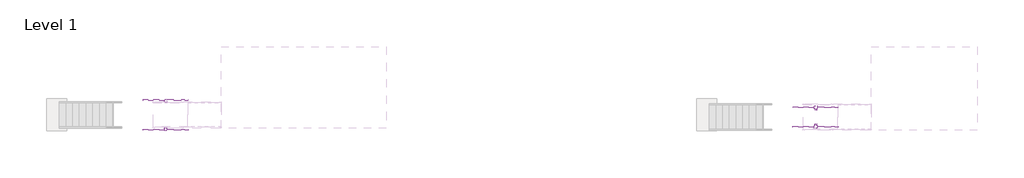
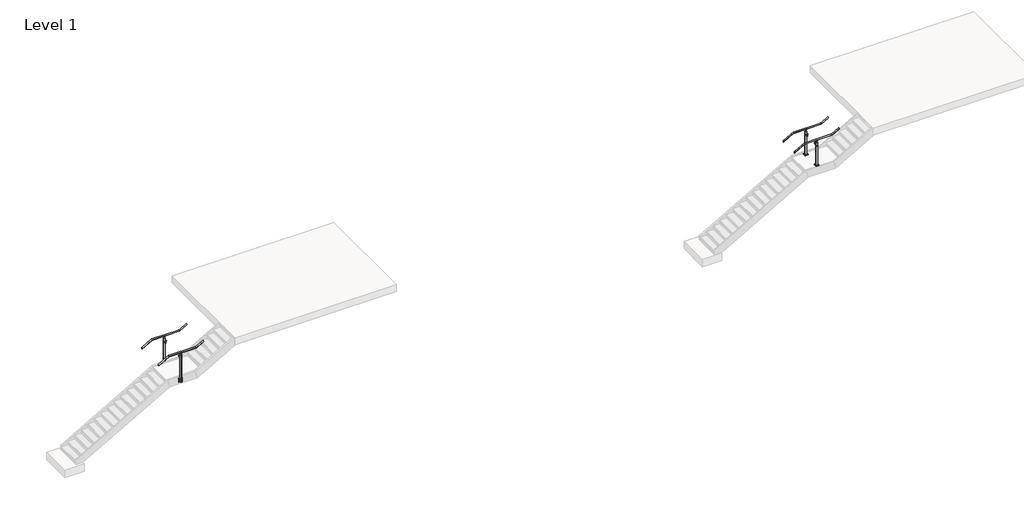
# One storey, part 22 of 26: 4 railings.
"""IFC4 building model written with IfcOpenShell, lengths in millimetres."""

from ifc_helpers import new_model, si_unit, point, frame, frame_2d, origin, place, context, project, spatial, polyline, circle_curve, ellipse_curve, trimmed, segment, composite_curve, outline, extrude, faceted_brep, element, save
from ifc_brep_helpers import plane_surface, cylinder_surface, advanced_brep

model = new_model("IFC4")

# Units and contexts
model_context = context("Model", 3, world=origin())
ifc_project = project(units=[si_unit("LENGTHUNIT", "METRE", prefix="MILLI")], contexts=[model_context])

# Site, building, storey
site = spatial("IfcSite", under=ifc_project)
building = spatial("IfcBuilding", under=site)
storey = spatial("IfcBuildingStorey", under=building, Name="Level 1", Elevation=0.0)

# Railings
placement = place(None, origin())
element("IfcRailing", 1, ObjectType="VIVA-CUBE-CableNet Infill-Panel-Fascia Mount-Stair-Landing", at=placement, inside=storey, context=model_context, shape_type="SolidModel", body=[
    advanced_brep(
    [(87644.1145262, 35001.3479941, 3009.6740933), (87644.1145262, 35052.1479941, 3009.6740933), (88031.8598629, 35001.3479941, 3231.2428571), (88031.8598629, 35052.1479941, 3231.2428571), (89368.1395262, 35001.3479941, 3385.2312362), (89368.1395262, 35052.1479941, 3385.2312362), (89098.6598629, 35052.1479941, 3231.2428571), (89098.6598629, 35001.3479941, 3231.2428571)],
    [
        (0, 1, ellipse_curve(frame((87644.1145262, 35026.7479941, 3009.6740933), z_axis=(-1.0, 0.0, 0.0), x_axis=(0.0, 0.0, -0.9999999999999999)), 29.2544781, 25.4)),
        (1, 0, ellipse_curve(frame((87644.1145262, 35026.7479941, 3009.6740933), z_axis=(-1.0, 0.0, 0.0), x_axis=(0.0, 0.0, -0.9999999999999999)), 29.2544781, 25.4)),
        (0, 2),
        (2, 3, ellipse_curve(frame((88031.8598629, 35026.7479941, 3231.2428571), z_axis=(-0.966499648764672, 0.0, -0.2566679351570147), x_axis=(0.2566679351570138, 0.0, -0.9664996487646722)), 26.2804027, 25.4)),
        (3, 1),
        (3, 2, ellipse_curve(frame((88031.8598629, 35026.7479941, 3231.2428571), z_axis=(-0.966499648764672, 0.0, -0.2566679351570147), x_axis=(0.2566679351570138, 0.0, -0.9664996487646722)), 26.2804027, 25.4)),
        (4, 5, ellipse_curve(frame((89368.1395262, 35026.7479941, 3385.2312362), z_axis=(1.0, 0.0, 0.0), x_axis=(0.0, 0.0, -1.0)), 29.2544781, 25.4)),
        (5, 4, ellipse_curve(frame((89368.1395262, 35026.7479941, 3385.2312362), z_axis=(1.0, 0.0, 0.0), x_axis=(0.0, 0.0, -1.0)), 29.2544781, 25.4)),
        (6, 7, ellipse_curve(frame((89098.6598629, 35026.7479941, 3231.2428571), z_axis=(0.9664996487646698, 0.0, 0.2566679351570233), x_axis=(0.2566679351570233, 0.0, -0.9664996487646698)), 26.2804027, 25.4)),
        (7, 4),
        (5, 6),
        (7, 6, ellipse_curve(frame((89098.6598629, 35026.7479941, 3231.2428571), z_axis=(0.9664996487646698, 0.0, 0.2566679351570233), x_axis=(0.2566679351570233, 0.0, -0.9664996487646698)), 26.2804027, 25.4)),
        (2, 7),
        (6, 3),
    ],
    [
        plane_surface(frame((87644.1145262, 35026.7479941, 3038.9285714), z_axis=(-1.0, 0.0, 0.0), x_axis=(0.0, 1.0, 0.0))),
        cylinder_surface(frame((87656.7164552, 35026.7479941, 3016.8751956), z_axis=(-0.868243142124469, 0.0, -0.49613893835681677), x_axis=(0.0, 1.0, 0.0)), 25.4),
        plane_surface(frame((89368.1395262, 35026.7479941, 3414.4857143), z_axis=(1.0, 0.0, 0.0), x_axis=(0.0, 1.0, 0.0))),
        cylinder_surface(frame((89104.5164552, 35026.7479941, 3234.5894813), z_axis=(-0.8682431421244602, 0.0, -0.49613893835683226), x_axis=(0.0, 1.0, 0.0)), 25.4),
        cylinder_surface(frame((88025.1145262, 35026.7479941, 3231.2428571), z_axis=(-1.0, 0.0, 0.0), x_axis=(0.0, 1.0, 0.0)), 25.4),
    ],
    [
        (0, [[1, 2]]),
        (1, [[-1, 3, 4, 5]]),
        (1, [[-2, -5, 6, -3]]),
        (2, [[7, 8]]),
        (3, [[9, 10, -8, 11]]),
        (3, [[12, -11, -7, -10]]),
        (4, [[-4, 13, -9, 14]]),
        (4, [[-6, -14, -12, -13]]),
    ],
),
    extrude(outline(composite_curve([segment(trimmed(circle_curve(frame_2d((0.0, 7.0)), 7.0), [point((0.0, 14.0))], [point((0.0, 0.0))], False, "CARTESIAN"), True, "CONTINUOUS"), segment(trimmed(circle_curve(frame_2d((0.0, 7.0)), 7.0), [point((0.0, 0.0))], [point((0.0, 14.0))], False, "CARTESIAN"), True, "CONTINUOUS")], self_intersect=False)), frame((88506.2255867, 34941.0641683, 2972.3156836), z_axis=(-0.0012555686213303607, 0.0, 0.999999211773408), x_axis=(-0.999999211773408, 0.0, -0.0012555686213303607)), (0.0, 0.0, 1.0), 75.97),
    extrude(outline(composite_curve([segment(polyline([(34946.3458245, 3056.8509005), (34947.3722142, 3055.8335135)]), True, "CONTINUOUS"), segment(trimmed(circle_curve(frame_2d((34946.3162363, 3054.7681916)), 1.5), [point((34947.3722142, 3055.8335135))], [point((34947.3016378, 3053.6372698))], False, "CARTESIAN"), True, "CONTINUOUS"), segment(trimmed(circle_curve(frame_2d((34932.8162363, 3070.2618193)), 22.05), [point((34947.3016378, 3053.6372698))], [point((34918.3308348, 3053.6372698))], False, "CARTESIAN"), True, "CONTINUOUS"), segment(trimmed(circle_curve(frame_2d((34919.3162363, 3054.7681916)), 1.5), [point((34918.3308348, 3053.6372698))], [point((34918.2602584, 3055.8335135))], False, "CARTESIAN"), True, "CONTINUOUS"), segment(polyline([(34918.2602584, 3055.8335135), (34919.2866481, 3056.8509005)]), True, "CONTINUOUS"), segment(trimmed(circle_curve(frame_2d((34932.8162363, 3070.2618193)), 19.05), [point((34919.2866481, 3056.8509005))], [point((34946.3458245, 3056.8509005))], True, "CARTESIAN"), True, "CONTINUOUS")], self_intersect=False)), frame((88468.0540528, 0.0, 0.0), z_axis=(1.0, 0.0, 0.0), x_axis=(0.0, 1.0, 0.0)), (0.0, 0.0, 1.0), 74.5229187),
    extrude(outline(composite_curve([segment(trimmed(circle_curve(frame_2d((2999.1922796, 88506.1656832)), 12.5), [point((2999.1922796, 88518.6656832))], [point((2999.1922796, 88493.6656832))], False, "CARTESIAN"), True, "CONTINUOUS"), segment(trimmed(circle_curve(frame_2d((2999.1922796, 88506.1656832)), 12.5), [point((2999.1922796, 88493.6656832))], [point((2999.1922796, 88518.6656832))], False, "CARTESIAN"), True, "CONTINUOUS")], self_intersect=False)), frame((0.0, 34919.2866481, 0.0), z_axis=(0.0, 1.0, 0.0), x_axis=(0.0, 0.0, 1.0)), (0.0, 0.0, 1.0), 82.061346),
    extrude(outline(polyline([(88569.6302012, 34972.2349585), (88442.6302012, 34972.2349585), (88442.6302012, 34982.2171585), (88569.6302012, 34982.2171585), (88569.6302012, 34972.2349585)])), frame((0.0, 0.0, 1999.3428571), z_axis=(0.0, 0.0, 1.0), x_axis=(1.0, 0.0, 0.0)), (0.0, 0.0, 1.0), 152.4),
    extrude(outline(composite_curve([segment(polyline([(2151.7428571, 88567.0902012), (2151.7428571, 88445.1702012)]), True, "CONTINUOUS"), segment(trimmed(circle_curve(frame_2d((2149.2028571, 88445.1702012)), 2.54), [point((2151.7428571, 88445.1702012))], [point((2149.2028571, 88442.6302012))], False, "CARTESIAN"), True, "CONTINUOUS"), segment(polyline([(2149.2028571, 88442.6302012), (2001.8828571, 88442.6302012)]), True, "CONTINUOUS"), segment(trimmed(circle_curve(frame_2d((2001.8828571, 88445.1702012)), 2.54), [point((2001.8828571, 88442.6302012))], [point((1999.3428571, 88445.1702012))], False, "CARTESIAN"), True, "CONTINUOUS"), segment(polyline([(1999.3428571, 88445.1702012), (1999.3428571, 88567.0902012)]), True, "CONTINUOUS"), segment(trimmed(circle_curve(frame_2d((2001.8828571, 88567.0902012)), 2.54), [point((1999.3428571, 88567.0902012))], [point((2001.8828571, 88569.6302012))], False, "CARTESIAN"), True, "CONTINUOUS"), segment(polyline([(2001.8828571, 88569.6302012), (2149.2028571, 88569.6302012)]), True, "CONTINUOUS"), segment(trimmed(circle_curve(frame_2d((2149.2028571, 88567.0902012)), 2.54), [point((2149.2028571, 88569.6302012))], [point((2151.7428571, 88567.0902012))], False, "CARTESIAN"), True, "CONTINUOUS")], self_intersect=False), holes=[composite_curve([segment(trimmed(circle_curve(frame_2d((2132.6928571, 88461.6802012)), 5.55625), [point((2132.6928571, 88467.2364512))], [point((2132.6928571, 88456.1239512))], True, "CARTESIAN"), True, "CONTINUOUS"), segment(trimmed(circle_curve(frame_2d((2132.6928571, 88461.6802012)), 5.55625), [point((2132.6928571, 88456.1239512))], [point((2132.6928571, 88467.2364512))], True, "CARTESIAN"), True, "CONTINUOUS")], self_intersect=False), composite_curve([segment(trimmed(circle_curve(frame_2d((2132.6928571, 88550.5802012)), 5.55625), [point((2132.6928571, 88556.1364512))], [point((2132.6928571, 88545.0239512))], True, "CARTESIAN"), True, "CONTINUOUS"), segment(trimmed(circle_curve(frame_2d((2132.6928571, 88550.5802012)), 5.55625), [point((2132.6928571, 88545.0239512))], [point((2132.6928571, 88556.1364512))], True, "CARTESIAN"), True, "CONTINUOUS")], self_intersect=False), composite_curve([segment(trimmed(circle_curve(frame_2d((2018.3928571, 88550.5802012)), 5.55625), [point((2018.3928571, 88556.1364512))], [point((2018.3928571, 88545.0239512))], True, "CARTESIAN"), True, "CONTINUOUS"), segment(trimmed(circle_curve(frame_2d((2018.3928571, 88550.5802012)), 5.55625), [point((2018.3928571, 88545.0239512))], [point((2018.3928571, 88556.1364512))], True, "CARTESIAN"), True, "CONTINUOUS")], self_intersect=False), composite_curve([segment(trimmed(circle_curve(frame_2d((2018.3928571, 88461.6802012)), 5.55625), [point((2018.3928571, 88467.2364512))], [point((2018.3928571, 88456.1239512))], True, "CARTESIAN"), True, "CONTINUOUS"), segment(trimmed(circle_curve(frame_2d((2018.3928571, 88461.6802012)), 5.55625), [point((2018.3928571, 88456.1239512))], [point((2018.3928571, 88467.2364512))], True, "CARTESIAN"), True, "CONTINUOUS")], self_intersect=False)]), frame((0.0, 34982.2171585, 0.0), z_axis=(0.0, 1.0, 0.0), x_axis=(0.0, 0.0, 1.0)), (0.0, 0.0, 1.0), 9.9822),
    extrude(outline(polyline([(88474.3802012, 34982.2171585), (88474.3802012, 35058.4979941), (88537.8802012, 35058.4979941), (88537.8802012, 34982.2171585), (88474.3802012, 34982.2171585)])), frame((0.0, 0.0, 2026.3303571), z_axis=(0.0, 0.0, 1.0), x_axis=(1.0, 0.0, 0.0)), (0.0, 0.0, 1.0), 9.5123),
    extrude(outline(polyline([(88474.3802012, 34982.2171585), (88474.3802012, 35058.4979941), (88537.8802012, 35058.4979941), (88537.8802012, 34982.2171585), (88474.3802012, 34982.2171585)])), frame((0.0, 0.0, 2115.2303571), z_axis=(0.0, 0.0, 1.0), x_axis=(1.0, 0.0, 0.0)), (0.0, 0.0, 1.0), 9.525),
    extrude(outline(composite_curve([segment(trimmed(circle_curve(frame_2d((2999.1922796, 88506.1656832)), 12.5), [point((2999.1922796, 88493.6656832))], [point((2999.1922796, 88518.6656832))], False, "CARTESIAN"), True, "CONTINUOUS"), segment(trimmed(circle_curve(frame_2d((2999.1922796, 88506.1656832)), 12.5), [point((2999.1922796, 88518.6656832))], [point((2999.1922796, 88493.6656832))], False, "CARTESIAN"), True, "CONTINUOUS")], self_intersect=False)), frame((0.0, 35052.1479941, 0.0), z_axis=(0.0, 1.0, 0.0), x_axis=(0.0, 0.0, 1.0)), (0.0, 0.0, 1.0), 7.62),
    faceted_brep([(88518.8302012, 35014.0479941, 3174.433132), (88518.8302012, 35022.7792441, 3174.433132), (88493.4302012, 35022.7792441, 3174.433132), (88493.4302012, 35014.0479941, 3174.433132), (88493.4302012, 35039.4479941, 3174.433132), (88493.4302012, 35030.7167441, 3174.433132), (88518.8302012, 35030.7167441, 3174.433132), (88518.8302012, 35039.4479941, 3174.433132), (88531.5302012, 35001.3479941, 3118.2776425), (88531.5302012, 35052.1479941, 3118.2776425), (88480.7302012, 35001.3479941, 3118.2776425), (88480.7302012, 35052.1479941, 3118.2776425), (88531.5302012, 35001.3479941, 2035.8426571), (88480.7302012, 35001.3479941, 2035.8426571), (88480.7302012, 35052.1479941, 2035.8426571), (88531.5302012, 35052.1479941, 2035.8426571), (88493.4302012, 35030.7167441, 3186.4734584), (88493.4302012, 35022.7792441, 3186.4734584), (88518.8302012, 35022.7792441, 3186.4734584), (88518.8302012, 35030.7167441, 3186.4734584)], [[[0, 1, 2, 3]], [[4, 5, 6, 7]], [[8, 9, 7, 6, 1, 0]], [[3, 10, 8, 0]], [[3, 2, 5, 4, 11, 10]], [[7, 9, 11, 4]], [[12, 13, 14, 15]], [[12, 8, 10, 13]], [[13, 10, 11, 14]], [[14, 11, 9, 15]], [[15, 9, 8, 12]], [[16, 17, 18, 19]], [[19, 6, 5, 16]], [[18, 1, 6, 19]], [[17, 2, 1, 18]], [[16, 5, 2, 17]]]),
    extrude(outline(composite_curve([segment(trimmed(circle_curve(frame_2d((35040.7626263, 3206.6530378)), 2.9558141), [point((35039.2150686, 3209.1713512))], [point((35043.050966, 3204.7821187))], False, "CARTESIAN"), True, "CONTINUOUS"), segment(trimmed(circle_curve(frame_2d((35026.7847288, 3232.0488022)), 31.75), [point((35043.050966, 3204.7821187))], [point((35011.5340738, 3204.2013603))], False, "CARTESIAN"), True, "CONTINUOUS"), segment(trimmed(circle_curve(frame_2d((35013.0113788, 3206.5739456)), 2.7949225), [point((35011.5340738, 3204.2013603))], [point((35014.256032, 3209.0764304))], False, "CARTESIAN"), True, "CONTINUOUS"), segment(trimmed(circle_curve(frame_2d((35026.6512657, 3231.2861755)), 25.4345159), [point((35014.256032, 3209.0764304))], [point((35039.2150686, 3209.1713512))], True, "CARTESIAN"), True, "CONTINUOUS")], self_intersect=False)), frame((88460.8928012, 0.0, 0.0), z_axis=(1.0, 0.0, 0.0), x_axis=(0.0, 1.0, 0.0)), (0.0, 0.0, 1.0), 90.4748),
    extrude(outline(composite_curve([segment(polyline([(3200.5113742, 88533.1981161), (3200.5113742, 88479.0622863)]), True, "CONTINUOUS"), segment(trimmed(circle_curve(frame_2d((3186.1434593, 88479.0622863)), 14.3679149), [point((3200.5113742, 88479.0622863))], [point((3186.1434593, 88493.4302012))], True, "CARTESIAN"), True, "CONTINUOUS"), segment(trimmed(circle_curve(frame_2d((3186.1434593, 88506.1302012)), 12.7), [point((3186.1434593, 88493.4302012))], [point((3186.1434593, 88518.8302012))], False, "CARTESIAN"), True, "CONTINUOUS"), segment(trimmed(circle_curve(frame_2d((3186.1434593, 88533.1981161)), 14.3679149), [point((3186.1434593, 88518.8302012))], [point((3200.5113742, 88533.1981161))], True, "CARTESIAN"), True, "CONTINUOUS")], self_intersect=False)), frame((0.0, 35024.2079941, 0.0), z_axis=(0.0, 1.0, 0.0), x_axis=(0.0, 0.0, 1.0)), (0.0, 0.0, 1.0), 5.08),
])
element("IfcRailing", 2, ObjectType="VIVA-CUBE-CableNet Infill-Panel-Floor Mount-Stair-Landing", at=placement, inside=storey, context=model_context, shape_type="SolidModel", body=[
    advanced_brep(
    [(112321.0882982, 34727.2265585, 3009.6740933), (112321.0882982, 34778.0265585, 3009.6740933), (112708.8336349, 34727.2265585, 3231.2428571), (112708.8336349, 34778.0265585, 3231.2428571), (114045.1132982, 34727.2265585, 3385.2312362), (114045.1132982, 34778.0265585, 3385.2312362), (113775.6336349, 34778.0265585, 3231.2428571), (113775.6336349, 34727.2265585, 3231.2428571)],
    [
        (0, 1, ellipse_curve(frame((112321.0882982, 34752.6265585, 3009.6740933), z_axis=(-1.0, 0.0, 0.0), x_axis=(0.0, 0.0, -0.9999999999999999)), 29.2544781, 25.4)),
        (1, 0, ellipse_curve(frame((112321.0882982, 34752.6265585, 3009.6740933), z_axis=(-1.0, 0.0, 0.0), x_axis=(0.0, 0.0, -0.9999999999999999)), 29.2544781, 25.4)),
        (0, 2),
        (2, 3, ellipse_curve(frame((112708.8336349, 34752.6265585, 3231.2428571), z_axis=(-0.966499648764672, 0.0, -0.25666793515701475), x_axis=(0.25666793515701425, 0.0, -0.9664996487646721)), 26.2804027, 25.4)),
        (3, 1),
        (3, 2, ellipse_curve(frame((112708.8336349, 34752.6265585, 3231.2428571), z_axis=(-0.966499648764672, 0.0, -0.25666793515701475), x_axis=(0.25666793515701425, 0.0, -0.9664996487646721)), 26.2804027, 25.4)),
        (4, 5, ellipse_curve(frame((114045.1132982, 34752.6265585, 3385.2312362), z_axis=(1.0, 0.0, 0.0), x_axis=(0.0, 0.0, -1.0)), 29.2544781, 25.4)),
        (5, 4, ellipse_curve(frame((114045.1132982, 34752.6265585, 3385.2312362), z_axis=(1.0, 0.0, 0.0), x_axis=(0.0, 0.0, -1.0)), 29.2544781, 25.4)),
        (6, 7, ellipse_curve(frame((113775.6336349, 34752.6265585, 3231.2428571), z_axis=(0.9664996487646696, 0.0, 0.2566679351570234), x_axis=(0.25666793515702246, 0.0, -0.9664996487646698)), 26.2804027, 25.4)),
        (7, 4),
        (5, 6),
        (7, 6, ellipse_curve(frame((113775.6336349, 34752.6265585, 3231.2428571), z_axis=(0.9664996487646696, 0.0, 0.2566679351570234), x_axis=(0.25666793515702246, 0.0, -0.9664996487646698)), 26.2804027, 25.4)),
        (2, 7),
        (6, 3),
    ],
    [
        plane_surface(frame((112321.0882982, 34752.6265585, 3038.9285714), z_axis=(-1.0, 0.0, 0.0), x_axis=(0.0, 1.0, 0.0))),
        cylinder_surface(frame((112333.6902273, 34752.6265585, 3016.8751956), z_axis=(-0.868243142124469, 0.0, -0.49613893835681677), x_axis=(0.0, 1.0, 0.0)), 25.4),
        plane_surface(frame((114045.1132982, 34752.6265585, 3414.4857143), z_axis=(1.0, 0.0, 0.0), x_axis=(0.0, 1.0, 0.0))),
        cylinder_surface(frame((113781.4902273, 34752.6265585, 3234.5894813), z_axis=(-0.8682431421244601, 0.0, -0.4961389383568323), x_axis=(0.0, 1.0, 0.0)), 25.4),
        cylinder_surface(frame((112702.0882982, 34752.6265585, 3231.2428571), z_axis=(-1.0, 0.0, 0.0), x_axis=(0.0, 1.0, 0.0)), 25.4),
    ],
    [
        (0, [[1, 2]]),
        (1, [[-1, 3, 4, 5]]),
        (1, [[-2, -5, 6, -3]]),
        (2, [[7, 8]]),
        (3, [[9, 10, -8, 11]]),
        (3, [[12, -11, -7, -10]]),
        (4, [[-4, 13, -9, 14]]),
        (4, [[-6, -14, -12, -13]]),
    ],
),
    extrude(outline(composite_curve([segment(trimmed(circle_curve(frame_2d((0.0, 7.0)), 7.0), [point((0.0, 14.0))], [point((0.0, 0.0))], False, "CARTESIAN"), True, "CONTINUOUS"), segment(trimmed(circle_curve(frame_2d((0.0, 7.0)), 7.0), [point((0.0, 0.0))], [point((0.0, 14.0))], False, "CARTESIAN"), True, "CONTINUOUS")], self_intersect=False)), frame((113183.1993588, 34666.9427327, 2972.3156836), z_axis=(-0.0012555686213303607, 0.0, 0.999999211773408), x_axis=(-0.999999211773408, 0.0, -0.0012555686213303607)), (0.0, 0.0, 1.0), 75.97),
    extrude(outline(composite_curve([segment(polyline([(34672.2243889, 3056.8509005), (34673.2507785, 3055.8335135)]), True, "CONTINUOUS"), segment(trimmed(circle_curve(frame_2d((34672.1948007, 3054.7681916)), 1.5), [point((34673.2507785, 3055.8335135))], [point((34673.1802021, 3053.6372698))], False, "CARTESIAN"), True, "CONTINUOUS"), segment(trimmed(circle_curve(frame_2d((34658.6948007, 3070.2618193)), 22.05), [point((34673.1802021, 3053.6372698))], [point((34644.2093992, 3053.6372698))], False, "CARTESIAN"), True, "CONTINUOUS"), segment(trimmed(circle_curve(frame_2d((34645.1948007, 3054.7681916)), 1.5), [point((34644.2093992, 3053.6372698))], [point((34644.1388228, 3055.8335135))], False, "CARTESIAN"), True, "CONTINUOUS"), segment(polyline([(34644.1388228, 3055.8335135), (34645.1652124, 3056.8509005)]), True, "CONTINUOUS"), segment(trimmed(circle_curve(frame_2d((34658.6948007, 3070.2618193)), 19.05), [point((34645.1652124, 3056.8509005))], [point((34672.2243889, 3056.8509005))], True, "CARTESIAN"), True, "CONTINUOUS")], self_intersect=False)), frame((113145.0278249, 0.0, 0.0), z_axis=(1.0, 0.0, 0.0), x_axis=(0.0, 1.0, 0.0)), (0.0, 0.0, 1.0), 74.5229187),
    extrude(outline(composite_curve([segment(trimmed(circle_curve(frame_2d((2999.1922796, 113183.1394553)), 12.5), [point((2999.1922796, 113195.6394553))], [point((2999.1922796, 113170.6394553))], False, "CARTESIAN"), True, "CONTINUOUS"), segment(trimmed(circle_curve(frame_2d((2999.1922796, 113183.1394553)), 12.5), [point((2999.1922796, 113170.6394553))], [point((2999.1922796, 113195.6394553))], False, "CARTESIAN"), True, "CONTINUOUS")], self_intersect=False)), frame((0.0, 34645.1652124, 0.0), z_axis=(0.0, 1.0, 0.0), x_axis=(0.0, 0.0, 1.0)), (0.0, 0.0, 1.0), 82.061346),
    extrude(outline(composite_curve([segment(trimmed(circle_curve(frame_2d((2999.1922796, 113183.1394553)), 12.5), [point((2999.1922796, 113170.6394553))], [point((2999.1922796, 113195.6394553))], False, "CARTESIAN"), True, "CONTINUOUS"), segment(trimmed(circle_curve(frame_2d((2999.1922796, 113183.1394553)), 12.5), [point((2999.1922796, 113195.6394553))], [point((2999.1922796, 113170.6394553))], False, "CARTESIAN"), True, "CONTINUOUS")], self_intersect=False)), frame((0.0, 34778.0265585, 0.0), z_axis=(0.0, 1.0, 0.0), x_axis=(0.0, 0.0, 1.0)), (0.0, 0.0, 1.0), 7.62),
    extrude(outline(polyline([(113246.6039732, 34689.1265585), (113119.6039732, 34689.1265585), (113119.6039732, 34816.1265585), (113246.6039732, 34816.1265585), (113246.6039732, 34689.1265585)]), holes=[composite_curve([segment(trimmed(circle_curve(frame_2d((113138.6539732, 34797.0765585)), 4.7625), [point((113138.6539732, 34801.8390585))], [point((113138.6539732, 34792.3140585))], True, "CARTESIAN"), True, "CONTINUOUS"), segment(trimmed(circle_curve(frame_2d((113138.6539732, 34797.0765585)), 4.7625), [point((113138.6539732, 34792.3140585))], [point((113138.6539732, 34801.8390585))], True, "CARTESIAN"), True, "CONTINUOUS")], self_intersect=False), composite_curve([segment(trimmed(circle_curve(frame_2d((113138.6539732, 34708.1765585)), 4.7625), [point((113138.6539732, 34712.9390585))], [point((113138.6539732, 34703.4140585))], True, "CARTESIAN"), True, "CONTINUOUS"), segment(trimmed(circle_curve(frame_2d((113138.6539732, 34708.1765585)), 4.7625), [point((113138.6539732, 34703.4140585))], [point((113138.6539732, 34712.9390585))], True, "CARTESIAN"), True, "CONTINUOUS")], self_intersect=False), composite_curve([segment(trimmed(circle_curve(frame_2d((113227.5539732, 34797.0765585)), 4.7625), [point((113227.5539732, 34801.8390585))], [point((113227.5539732, 34792.3140585))], True, "CARTESIAN"), True, "CONTINUOUS"), segment(trimmed(circle_curve(frame_2d((113227.5539732, 34797.0765585)), 4.7625), [point((113227.5539732, 34792.3140585))], [point((113227.5539732, 34801.8390585))], True, "CARTESIAN"), True, "CONTINUOUS")], self_intersect=False), composite_curve([segment(trimmed(circle_curve(frame_2d((113227.5539732, 34708.1765585)), 4.7625), [point((113227.5539732, 34712.9390585))], [point((113227.5539732, 34703.4140585))], True, "CARTESIAN"), True, "CONTINUOUS"), segment(trimmed(circle_curve(frame_2d((113227.5539732, 34708.1765585)), 4.7625), [point((113227.5539732, 34703.4140585))], [point((113227.5539732, 34712.9390585))], True, "CARTESIAN"), True, "CONTINUOUS")], self_intersect=False)]), frame((0.0, 0.0, 2177.1428571), z_axis=(0.0, 0.0, 1.0), x_axis=(1.0, 0.0, 0.0)), (0.0, 0.0, 1.0), 25.4),
    faceted_brep([(113195.8039732, 34739.9265585, 3174.433132), (113195.8039732, 34748.6578085, 3174.433132), (113170.4039732, 34748.6578085, 3174.433132), (113170.4039732, 34739.9265585, 3174.433132), (113170.4039732, 34765.3265585, 3174.433132), (113170.4039732, 34756.5953085, 3174.433132), (113195.8039732, 34756.5953085, 3174.433132), (113195.8039732, 34765.3265585, 3174.433132), (113208.5039732, 34727.2265585, 3118.2776425), (113208.5039732, 34778.0265585, 3118.2776425), (113157.7039732, 34727.2265585, 3118.2776425), (113157.7039732, 34778.0265585, 3118.2776425), (113208.5039732, 34727.2265585, 2202.5428571), (113157.7039732, 34727.2265585, 2202.5428571), (113157.7039732, 34778.0265585, 2202.5428571), (113208.5039732, 34778.0265585, 2202.5428571), (113170.4039732, 34756.5953085, 3186.4734584), (113170.4039732, 34748.6578085, 3186.4734584), (113195.8039732, 34748.6578085, 3186.4734584), (113195.8039732, 34756.5953085, 3186.4734584)], [[[0, 1, 2, 3]], [[4, 5, 6, 7]], [[8, 9, 7, 6, 1, 0]], [[3, 10, 8, 0]], [[3, 2, 5, 4, 11, 10]], [[7, 9, 11, 4]], [[12, 13, 14, 15]], [[12, 8, 10, 13]], [[13, 10, 11, 14]], [[14, 11, 9, 15]], [[15, 9, 8, 12]], [[16, 17, 18, 19]], [[19, 6, 5, 16]], [[18, 1, 6, 19]], [[17, 2, 1, 18]], [[16, 5, 2, 17]]]),
    extrude(outline(composite_curve([segment(trimmed(circle_curve(frame_2d((34766.6411907, 3206.6530378)), 2.9558141), [point((34765.093633, 3209.1713512))], [point((34768.9295304, 3204.7821187))], False, "CARTESIAN"), True, "CONTINUOUS"), segment(trimmed(circle_curve(frame_2d((34752.6632932, 3232.0488022)), 31.75), [point((34768.9295304, 3204.7821187))], [point((34737.4126382, 3204.2013603))], False, "CARTESIAN"), True, "CONTINUOUS"), segment(trimmed(circle_curve(frame_2d((34738.8899432, 3206.5739456)), 2.7949225), [point((34737.4126382, 3204.2013603))], [point((34740.1345964, 3209.0764304))], False, "CARTESIAN"), True, "CONTINUOUS"), segment(trimmed(circle_curve(frame_2d((34752.5298301, 3231.2861755)), 25.4345159), [point((34740.1345964, 3209.0764304))], [point((34765.093633, 3209.1713512))], True, "CARTESIAN"), True, "CONTINUOUS")], self_intersect=False)), frame((113137.8665732, 0.0, 0.0), z_axis=(1.0, 0.0, 0.0), x_axis=(0.0, 1.0, 0.0)), (0.0, 0.0, 1.0), 90.4748),
    extrude(outline(composite_curve([segment(polyline([(3200.5113742, 113210.1718881), (3200.5113742, 113156.0360584)]), True, "CONTINUOUS"), segment(trimmed(circle_curve(frame_2d((3186.1434593, 113156.0360584)), 14.3679149), [point((3200.5113742, 113156.0360584))], [point((3186.1434593, 113170.4039732))], True, "CARTESIAN"), True, "CONTINUOUS"), segment(trimmed(circle_curve(frame_2d((3186.1434593, 113183.1039732)), 12.7), [point((3186.1434593, 113170.4039732))], [point((3186.1434593, 113195.8039732))], False, "CARTESIAN"), True, "CONTINUOUS"), segment(trimmed(circle_curve(frame_2d((3186.1434593, 113210.1718881)), 14.3679149), [point((3186.1434593, 113195.8039732))], [point((3200.5113742, 113210.1718881))], True, "CARTESIAN"), True, "CONTINUOUS")], self_intersect=False)), frame((0.0, 34750.0865585, 0.0), z_axis=(0.0, 1.0, 0.0), x_axis=(0.0, 0.0, 1.0)), (0.0, 0.0, 1.0), 5.08),
])
element("IfcRailing", 3, ObjectType="VIVA-CUBE-CableNet Infill-Panel-Fascia Mount-Stair-Landing", at=placement, inside=storey, context=model_context, shape_type="SolidModel", body=[
    advanced_brep(
    [(87644.1145262, 33876.3311941, 3009.6740933), (87644.1145262, 33927.1311941, 3009.6740933), (88031.8598629, 33876.3311941, 3231.2428571), (88031.8598629, 33927.1311941, 3231.2428571), (89368.1395262, 33876.3311941, 3385.2312362), (89368.1395262, 33927.1311941, 3385.2312362), (89098.6598629, 33927.1311941, 3231.2428571), (89098.6598629, 33876.3311941, 3231.2428571)],
    [
        (0, 1, ellipse_curve(frame((87644.1145262, 33901.7311941, 3009.6740933), z_axis=(-1.0, 0.0, 0.0), x_axis=(0.0, 0.0, -0.9999999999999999)), 29.2544781, 25.4)),
        (1, 0, ellipse_curve(frame((87644.1145262, 33901.7311941, 3009.6740933), z_axis=(-1.0, 0.0, 0.0), x_axis=(0.0, 0.0, -0.9999999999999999)), 29.2544781, 25.4)),
        (0, 2),
        (2, 3, ellipse_curve(frame((88031.8598629, 33901.7311941, 3231.2428571), z_axis=(-0.966499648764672, 0.0, -0.2566679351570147), x_axis=(0.2566679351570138, 0.0, -0.9664996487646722)), 26.2804027, 25.4)),
        (3, 1),
        (3, 2, ellipse_curve(frame((88031.8598629, 33901.7311941, 3231.2428571), z_axis=(-0.966499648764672, 0.0, -0.2566679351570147), x_axis=(0.2566679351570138, 0.0, -0.9664996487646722)), 26.2804027, 25.4)),
        (4, 5, ellipse_curve(frame((89368.1395262, 33901.7311941, 3385.2312362), z_axis=(1.0, 0.0, 0.0), x_axis=(0.0, 0.0, -1.0)), 29.2544781, 25.4)),
        (5, 4, ellipse_curve(frame((89368.1395262, 33901.7311941, 3385.2312362), z_axis=(1.0, 0.0, 0.0), x_axis=(0.0, 0.0, -1.0)), 29.2544781, 25.4)),
        (6, 7, ellipse_curve(frame((89098.6598629, 33901.7311941, 3231.2428571), z_axis=(0.9664996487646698, 0.0, 0.2566679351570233), x_axis=(0.2566679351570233, 0.0, -0.9664996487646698)), 26.2804027, 25.4)),
        (7, 4),
        (5, 6),
        (7, 6, ellipse_curve(frame((89098.6598629, 33901.7311941, 3231.2428571), z_axis=(0.9664996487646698, 0.0, 0.2566679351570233), x_axis=(0.2566679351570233, 0.0, -0.9664996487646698)), 26.2804027, 25.4)),
        (2, 7),
        (6, 3),
    ],
    [
        plane_surface(frame((87644.1145262, 33901.7311941, 3038.9285714), z_axis=(-1.0, 0.0, 0.0), x_axis=(0.0, 1.0, 0.0))),
        cylinder_surface(frame((87656.7164552, 33901.7311941, 3016.8751956), z_axis=(-0.868243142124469, 0.0, -0.49613893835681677), x_axis=(0.0, 1.0, 0.0)), 25.4),
        plane_surface(frame((89368.1395262, 33901.7311941, 3414.4857143), z_axis=(1.0, 0.0, 0.0), x_axis=(0.0, 1.0, 0.0))),
        cylinder_surface(frame((89104.5164552, 33901.7311941, 3234.5894813), z_axis=(-0.8682431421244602, 0.0, -0.49613893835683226), x_axis=(0.0, 1.0, 0.0)), 25.4),
        cylinder_surface(frame((88025.1145262, 33901.7311941, 3231.2428571), z_axis=(-1.0, 0.0, 0.0), x_axis=(0.0, 1.0, 0.0)), 25.4),
    ],
    [
        (0, [[1, 2]]),
        (1, [[-1, 3, 4, 5]]),
        (1, [[-2, -5, 6, -3]]),
        (2, [[7, 8]]),
        (3, [[9, 10, -8, 11]]),
        (3, [[12, -11, -7, -10]]),
        (4, [[-4, 13, -9, 14]]),
        (4, [[-6, -14, -12, -13]]),
    ],
),
    extrude(outline(composite_curve([segment(trimmed(circle_curve(frame_2d((0.0, -7.0)), 7.0), [point((0.0, -14.0))], [point((0.0, 0.0))], False, "CARTESIAN"), True, "CONTINUOUS"), segment(trimmed(circle_curve(frame_2d((0.0, -7.0)), 7.0), [point((0.0, 0.0))], [point((0.0, -14.0))], False, "CARTESIAN"), True, "CONTINUOUS")], self_intersect=False)), frame((88506.2255867, 33987.4150199, 2972.3156836), z_axis=(-0.0012555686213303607, 0.0, 0.999999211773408), x_axis=(-0.999999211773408, 0.0, -0.0012555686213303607)), (0.0, 0.0, 1.0), 75.97),
    extrude(outline(composite_curve([segment(trimmed(circle_curve(frame_2d((33995.6629519, 3070.2618193)), 19.05), [point((33982.1333637, 3056.8509005))], [point((34009.1925401, 3056.8509005))], True, "CARTESIAN"), True, "CONTINUOUS"), segment(polyline([(34009.1925401, 3056.8509005), (34010.2189298, 3055.8335135)]), True, "CONTINUOUS"), segment(trimmed(circle_curve(frame_2d((34009.1629519, 3054.7681916)), 1.5), [point((34010.2189298, 3055.8335135))], [point((34010.1483534, 3053.6372698))], False, "CARTESIAN"), True, "CONTINUOUS"), segment(trimmed(circle_curve(frame_2d((33995.6629519, 3070.2618193)), 22.05), [point((34010.1483534, 3053.6372698))], [point((33981.1775504, 3053.6372698))], False, "CARTESIAN"), True, "CONTINUOUS"), segment(trimmed(circle_curve(frame_2d((33982.1629519, 3054.7681916)), 1.5), [point((33981.1775504, 3053.6372698))], [point((33981.106974, 3055.8335135))], False, "CARTESIAN"), True, "CONTINUOUS"), segment(polyline([(33981.106974, 3055.8335135), (33982.1333637, 3056.8509005)]), True, "CONTINUOUS")], self_intersect=False)), frame((88468.0540528, 0.0, 0.0), z_axis=(1.0, 0.0, 0.0), x_axis=(0.0, 1.0, 0.0)), (0.0, 0.0, 1.0), 74.5229187),
    extrude(outline(composite_curve([segment(trimmed(circle_curve(frame_2d((2999.1922796, 88506.1656832)), 12.5), [point((2999.1922796, 88518.6656832))], [point((2999.1922796, 88493.6656832))], False, "CARTESIAN"), True, "CONTINUOUS"), segment(trimmed(circle_curve(frame_2d((2999.1922796, 88506.1656832)), 12.5), [point((2999.1922796, 88493.6656832))], [point((2999.1922796, 88518.6656832))], False, "CARTESIAN"), True, "CONTINUOUS")], self_intersect=False)), frame((0.0, 33927.1311941, 0.0), z_axis=(0.0, 1.0, 0.0), x_axis=(0.0, 0.0, 1.0)), (0.0, 0.0, 1.0), 82.061346),
    extrude(outline(polyline([(88569.6302012, 33956.2442297), (88569.6302012, 33946.2620297), (88442.6302012, 33946.2620297), (88442.6302012, 33956.2442297), (88569.6302012, 33956.2442297)])), frame((0.0, 0.0, 1999.3428571), z_axis=(0.0, 0.0, 1.0), x_axis=(1.0, 0.0, 0.0)), (0.0, 0.0, 1.0), 152.4),
    extrude(outline(composite_curve([segment(polyline([(2151.7428571, 88567.0902012), (2151.7428571, 88445.1702012)]), True, "CONTINUOUS"), segment(trimmed(circle_curve(frame_2d((2149.2028571, 88445.1702012)), 2.54), [point((2151.7428571, 88445.1702012))], [point((2149.2028571, 88442.6302012))], False, "CARTESIAN"), True, "CONTINUOUS"), segment(polyline([(2149.2028571, 88442.6302012), (2001.8828571, 88442.6302012)]), True, "CONTINUOUS"), segment(trimmed(circle_curve(frame_2d((2001.8828571, 88445.1702012)), 2.54), [point((2001.8828571, 88442.6302012))], [point((1999.3428571, 88445.1702012))], False, "CARTESIAN"), True, "CONTINUOUS"), segment(polyline([(1999.3428571, 88445.1702012), (1999.3428571, 88567.0902012)]), True, "CONTINUOUS"), segment(trimmed(circle_curve(frame_2d((2001.8828571, 88567.0902012)), 2.54), [point((1999.3428571, 88567.0902012))], [point((2001.8828571, 88569.6302012))], False, "CARTESIAN"), True, "CONTINUOUS"), segment(polyline([(2001.8828571, 88569.6302012), (2149.2028571, 88569.6302012)]), True, "CONTINUOUS"), segment(trimmed(circle_curve(frame_2d((2149.2028571, 88567.0902012)), 2.54), [point((2149.2028571, 88569.6302012))], [point((2151.7428571, 88567.0902012))], False, "CARTESIAN"), True, "CONTINUOUS")], self_intersect=False), holes=[composite_curve([segment(trimmed(circle_curve(frame_2d((2132.6928571, 88461.6802012)), 5.55625), [point((2132.6928571, 88467.2364512))], [point((2132.6928571, 88456.1239512))], True, "CARTESIAN"), True, "CONTINUOUS"), segment(trimmed(circle_curve(frame_2d((2132.6928571, 88461.6802012)), 5.55625), [point((2132.6928571, 88456.1239512))], [point((2132.6928571, 88467.2364512))], True, "CARTESIAN"), True, "CONTINUOUS")], self_intersect=False), composite_curve([segment(trimmed(circle_curve(frame_2d((2132.6928571, 88550.5802012)), 5.55625), [point((2132.6928571, 88556.1364512))], [point((2132.6928571, 88545.0239512))], True, "CARTESIAN"), True, "CONTINUOUS"), segment(trimmed(circle_curve(frame_2d((2132.6928571, 88550.5802012)), 5.55625), [point((2132.6928571, 88545.0239512))], [point((2132.6928571, 88556.1364512))], True, "CARTESIAN"), True, "CONTINUOUS")], self_intersect=False), composite_curve([segment(trimmed(circle_curve(frame_2d((2018.3928571, 88550.5802012)), 5.55625), [point((2018.3928571, 88556.1364512))], [point((2018.3928571, 88545.0239512))], True, "CARTESIAN"), True, "CONTINUOUS"), segment(trimmed(circle_curve(frame_2d((2018.3928571, 88550.5802012)), 5.55625), [point((2018.3928571, 88545.0239512))], [point((2018.3928571, 88556.1364512))], True, "CARTESIAN"), True, "CONTINUOUS")], self_intersect=False), composite_curve([segment(trimmed(circle_curve(frame_2d((2018.3928571, 88461.6802012)), 5.55625), [point((2018.3928571, 88467.2364512))], [point((2018.3928571, 88456.1239512))], True, "CARTESIAN"), True, "CONTINUOUS"), segment(trimmed(circle_curve(frame_2d((2018.3928571, 88461.6802012)), 5.55625), [point((2018.3928571, 88456.1239512))], [point((2018.3928571, 88467.2364512))], True, "CARTESIAN"), True, "CONTINUOUS")], self_intersect=False)]), frame((0.0, 33936.2798297, 0.0), z_axis=(0.0, 1.0, 0.0), x_axis=(0.0, 0.0, 1.0)), (0.0, 0.0, 1.0), 9.9822),
    extrude(outline(polyline([(88474.3802012, 33946.2620297), (88537.8802012, 33946.2620297), (88537.8802012, 33869.9811941), (88474.3802012, 33869.9811941), (88474.3802012, 33946.2620297)])), frame((0.0, 0.0, 2026.3303571), z_axis=(0.0, 0.0, 1.0), x_axis=(1.0, 0.0, 0.0)), (0.0, 0.0, 1.0), 9.5123),
    extrude(outline(polyline([(88474.3802012, 33946.2620297), (88537.8802012, 33946.2620297), (88537.8802012, 33869.9811941), (88474.3802012, 33869.9811941), (88474.3802012, 33946.2620297)])), frame((0.0, 0.0, 2115.2303571), z_axis=(0.0, 0.0, 1.0), x_axis=(1.0, 0.0, 0.0)), (0.0, 0.0, 1.0), 9.525),
    extrude(outline(composite_curve([segment(trimmed(circle_curve(frame_2d((2999.1922796, 88506.1656832)), 12.5), [point((2999.1922796, 88493.6656832))], [point((2999.1922796, 88518.6656832))], False, "CARTESIAN"), True, "CONTINUOUS"), segment(trimmed(circle_curve(frame_2d((2999.1922796, 88506.1656832)), 12.5), [point((2999.1922796, 88518.6656832))], [point((2999.1922796, 88493.6656832))], False, "CARTESIAN"), True, "CONTINUOUS")], self_intersect=False)), frame((0.0, 33868.7111941, 0.0), z_axis=(0.0, 1.0, 0.0), x_axis=(0.0, 0.0, 1.0)), (0.0, 0.0, 1.0), 7.62),
    faceted_brep([(88518.8302012, 33914.4311941, 3174.433132), (88493.4302012, 33914.4311941, 3174.433132), (88493.4302012, 33905.6999441, 3174.433132), (88518.8302012, 33905.6999441, 3174.433132), (88493.4302012, 33889.0311941, 3174.433132), (88518.8302012, 33889.0311941, 3174.433132), (88518.8302012, 33897.7624441, 3174.433132), (88493.4302012, 33897.7624441, 3174.433132), (88531.5302012, 33927.1311941, 3118.2776425), (88531.5302012, 33876.3311941, 3118.2776425), (88480.7302012, 33927.1311941, 3118.2776425), (88480.7302012, 33876.3311941, 3118.2776425), (88531.5302012, 33927.1311941, 2035.8426571), (88531.5302012, 33876.3311941, 2035.8426571), (88480.7302012, 33876.3311941, 2035.8426571), (88480.7302012, 33927.1311941, 2035.8426571), (88493.4302012, 33897.7624441, 3186.4734584), (88518.8302012, 33897.7624441, 3186.4734584), (88518.8302012, 33905.6999441, 3186.4734584), (88493.4302012, 33905.6999441, 3186.4734584)], [[[0, 1, 2, 3]], [[4, 5, 6, 7]], [[8, 0, 3, 6, 5, 9]], [[1, 0, 8, 10]], [[1, 10, 11, 4, 7, 2]], [[5, 4, 11, 9]], [[12, 13, 14, 15]], [[12, 15, 10, 8]], [[15, 14, 11, 10]], [[14, 13, 9, 11]], [[13, 12, 8, 9]], [[16, 17, 18, 19]], [[17, 16, 7, 6]], [[18, 17, 6, 3]], [[19, 18, 3, 2]], [[16, 19, 2, 7]]]),
    extrude(outline(composite_curve([segment(trimmed(circle_curve(frame_2d((33901.8279225, 3231.2861755)), 25.4345159), [point((33889.2641196, 3209.1713512))], [point((33914.2231562, 3209.0764304))], True, "CARTESIAN"), True, "CONTINUOUS"), segment(trimmed(circle_curve(frame_2d((33915.4678094, 3206.5739456)), 2.7949225), [point((33914.2231562, 3209.0764304))], [point((33916.9451144, 3204.2013603))], False, "CARTESIAN"), True, "CONTINUOUS"), segment(trimmed(circle_curve(frame_2d((33901.6944594, 3232.0488022)), 31.75), [point((33916.9451144, 3204.2013603))], [point((33885.4282222, 3204.7821187))], False, "CARTESIAN"), True, "CONTINUOUS"), segment(trimmed(circle_curve(frame_2d((33887.7165619, 3206.6530378)), 2.9558141), [point((33885.4282222, 3204.7821187))], [point((33889.2641196, 3209.1713512))], False, "CARTESIAN"), True, "CONTINUOUS")], self_intersect=False)), frame((88460.8928012, 0.0, 0.0), z_axis=(1.0, 0.0, 0.0), x_axis=(0.0, 1.0, 0.0)), (0.0, 0.0, 1.0), 90.4748),
    extrude(outline(composite_curve([segment(polyline([(3200.5113742, 88533.1981161), (3200.5113742, 88479.0622863)]), True, "CONTINUOUS"), segment(trimmed(circle_curve(frame_2d((3186.1434593, 88479.0622863)), 14.3679149), [point((3200.5113742, 88479.0622863))], [point((3186.1434593, 88493.4302012))], True, "CARTESIAN"), True, "CONTINUOUS"), segment(trimmed(circle_curve(frame_2d((3186.1434593, 88506.1302012)), 12.7), [point((3186.1434593, 88493.4302012))], [point((3186.1434593, 88518.8302012))], False, "CARTESIAN"), True, "CONTINUOUS"), segment(trimmed(circle_curve(frame_2d((3186.1434593, 88533.1981161)), 14.3679149), [point((3186.1434593, 88518.8302012))], [point((3200.5113742, 88533.1981161))], True, "CARTESIAN"), True, "CONTINUOUS")], self_intersect=False)), frame((0.0, 33899.1911941, 0.0), z_axis=(0.0, 1.0, 0.0), x_axis=(0.0, 0.0, 1.0)), (0.0, 0.0, 1.0), 5.08),
])
element("IfcRailing", 4, ObjectType="VIVA-CUBE-CableNet Infill-Panel-Floor Mount-Stair-Landing", at=placement, inside=storey, context=model_context, shape_type="SolidModel", body=[
    advanced_brep(
    [(112321.0882982, 33990.6265585, 3009.6740933), (112321.0882982, 34041.4265585, 3009.6740933), (112708.8336349, 33990.6265585, 3231.2428571), (112708.8336349, 34041.4265585, 3231.2428571), (114045.1132982, 33990.6265585, 3385.2312362), (114045.1132982, 34041.4265585, 3385.2312362), (113775.6336349, 34041.4265585, 3231.2428571), (113775.6336349, 33990.6265585, 3231.2428571)],
    [
        (0, 1, ellipse_curve(frame((112321.0882982, 34016.0265585, 3009.6740933), z_axis=(-1.0, 0.0, 0.0), x_axis=(0.0, 0.0, -0.9999999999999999)), 29.2544781, 25.4)),
        (1, 0, ellipse_curve(frame((112321.0882982, 34016.0265585, 3009.6740933), z_axis=(-1.0, 0.0, 0.0), x_axis=(0.0, 0.0, -0.9999999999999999)), 29.2544781, 25.4)),
        (0, 2),
        (2, 3, ellipse_curve(frame((112708.8336349, 34016.0265585, 3231.2428571), z_axis=(-0.966499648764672, 0.0, -0.25666793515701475), x_axis=(0.25666793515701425, 0.0, -0.9664996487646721)), 26.2804027, 25.4)),
        (3, 1),
        (3, 2, ellipse_curve(frame((112708.8336349, 34016.0265585, 3231.2428571), z_axis=(-0.966499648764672, 0.0, -0.25666793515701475), x_axis=(0.25666793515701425, 0.0, -0.9664996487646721)), 26.2804027, 25.4)),
        (4, 5, ellipse_curve(frame((114045.1132982, 34016.0265585, 3385.2312362), z_axis=(1.0, 0.0, 0.0), x_axis=(0.0, 0.0, -1.0)), 29.2544781, 25.4)),
        (5, 4, ellipse_curve(frame((114045.1132982, 34016.0265585, 3385.2312362), z_axis=(1.0, 0.0, 0.0), x_axis=(0.0, 0.0, -1.0)), 29.2544781, 25.4)),
        (6, 7, ellipse_curve(frame((113775.6336349, 34016.0265585, 3231.2428571), z_axis=(0.9664996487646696, 0.0, 0.2566679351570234), x_axis=(0.25666793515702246, 0.0, -0.9664996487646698)), 26.2804027, 25.4)),
        (7, 4),
        (5, 6),
        (7, 6, ellipse_curve(frame((113775.6336349, 34016.0265585, 3231.2428571), z_axis=(0.9664996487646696, 0.0, 0.2566679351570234), x_axis=(0.25666793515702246, 0.0, -0.9664996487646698)), 26.2804027, 25.4)),
        (2, 7),
        (6, 3),
    ],
    [
        plane_surface(frame((112321.0882982, 34016.0265585, 3038.9285714), z_axis=(-1.0, 0.0, 0.0), x_axis=(0.0, 1.0, 0.0))),
        cylinder_surface(frame((112333.6902273, 34016.0265585, 3016.8751956), z_axis=(-0.868243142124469, 0.0, -0.49613893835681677), x_axis=(0.0, 1.0, 0.0)), 25.4),
        plane_surface(frame((114045.1132982, 34016.0265585, 3414.4857143), z_axis=(1.0, 0.0, 0.0), x_axis=(0.0, 1.0, 0.0))),
        cylinder_surface(frame((113781.4902273, 34016.0265585, 3234.5894813), z_axis=(-0.8682431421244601, 0.0, -0.4961389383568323), x_axis=(0.0, 1.0, 0.0)), 25.4),
        cylinder_surface(frame((112702.0882982, 34016.0265585, 3231.2428571), z_axis=(-1.0, 0.0, 0.0), x_axis=(0.0, 1.0, 0.0)), 25.4),
    ],
    [
        (0, [[1, 2]]),
        (1, [[-1, 3, 4, 5]]),
        (1, [[-2, -5, 6, -3]]),
        (2, [[7, 8]]),
        (3, [[9, 10, -8, 11]]),
        (3, [[12, -11, -7, -10]]),
        (4, [[-4, 13, -9, 14]]),
        (4, [[-6, -14, -12, -13]]),
    ],
),
    extrude(outline(composite_curve([segment(trimmed(circle_curve(frame_2d((0.0, -7.0)), 7.0), [point((0.0, -14.0))], [point((0.0, 0.0))], False, "CARTESIAN"), True, "CONTINUOUS"), segment(trimmed(circle_curve(frame_2d((0.0, -7.0)), 7.0), [point((0.0, 0.0))], [point((0.0, -14.0))], False, "CARTESIAN"), True, "CONTINUOUS")], self_intersect=False)), frame((113183.1993588, 34101.7103842, 2972.3156836), z_axis=(-0.0012555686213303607, 0.0, 0.999999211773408), x_axis=(-0.999999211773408, 0.0, -0.0012555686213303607)), (0.0, 0.0, 1.0), 75.97),
    extrude(outline(composite_curve([segment(trimmed(circle_curve(frame_2d((34109.9583163, 3070.2618193)), 19.05), [point((34096.428728, 3056.8509005))], [point((34123.4879045, 3056.8509005))], True, "CARTESIAN"), True, "CONTINUOUS"), segment(polyline([(34123.4879045, 3056.8509005), (34124.5142941, 3055.8335135)]), True, "CONTINUOUS"), segment(trimmed(circle_curve(frame_2d((34123.4583163, 3054.7681916)), 1.5), [point((34124.5142941, 3055.8335135))], [point((34124.4437177, 3053.6372698))], False, "CARTESIAN"), True, "CONTINUOUS"), segment(trimmed(circle_curve(frame_2d((34109.9583163, 3070.2618193)), 22.05), [point((34124.4437177, 3053.6372698))], [point((34095.4729148, 3053.6372698))], False, "CARTESIAN"), True, "CONTINUOUS"), segment(trimmed(circle_curve(frame_2d((34096.4583163, 3054.7681916)), 1.5), [point((34095.4729148, 3053.6372698))], [point((34095.4023384, 3055.8335135))], False, "CARTESIAN"), True, "CONTINUOUS"), segment(polyline([(34095.4023384, 3055.8335135), (34096.428728, 3056.8509005)]), True, "CONTINUOUS")], self_intersect=False)), frame((113145.0278249, 0.0, 0.0), z_axis=(1.0, 0.0, 0.0), x_axis=(0.0, 1.0, 0.0)), (0.0, 0.0, 1.0), 74.5229187),
    extrude(outline(composite_curve([segment(trimmed(circle_curve(frame_2d((2999.1922796, 113183.1394553)), 12.5), [point((2999.1922796, 113195.6394553))], [point((2999.1922796, 113170.6394553))], False, "CARTESIAN"), True, "CONTINUOUS"), segment(trimmed(circle_curve(frame_2d((2999.1922796, 113183.1394553)), 12.5), [point((2999.1922796, 113170.6394553))], [point((2999.1922796, 113195.6394553))], False, "CARTESIAN"), True, "CONTINUOUS")], self_intersect=False)), frame((0.0, 34041.4265585, 0.0), z_axis=(0.0, 1.0, 0.0), x_axis=(0.0, 0.0, 1.0)), (0.0, 0.0, 1.0), 82.061346),
    extrude(outline(composite_curve([segment(trimmed(circle_curve(frame_2d((2999.1922796, 113183.1394553)), 12.5), [point((2999.1922796, 113170.6394553))], [point((2999.1922796, 113195.6394553))], False, "CARTESIAN"), True, "CONTINUOUS"), segment(trimmed(circle_curve(frame_2d((2999.1922796, 113183.1394553)), 12.5), [point((2999.1922796, 113195.6394553))], [point((2999.1922796, 113170.6394553))], False, "CARTESIAN"), True, "CONTINUOUS")], self_intersect=False)), frame((0.0, 33983.0065585, 0.0), z_axis=(0.0, 1.0, 0.0), x_axis=(0.0, 0.0, 1.0)), (0.0, 0.0, 1.0), 7.62),
    extrude(outline(polyline([(113246.6039732, 34079.5265585), (113246.6039732, 33952.5265585), (113119.6039732, 33952.5265585), (113119.6039732, 34079.5265585), (113246.6039732, 34079.5265585)]), holes=[composite_curve([segment(trimmed(circle_curve(frame_2d((113138.6539732, 33971.5765585)), 4.7625), [point((113138.6539732, 33966.8140585))], [point((113138.6539732, 33976.3390585))], True, "CARTESIAN"), True, "CONTINUOUS"), segment(trimmed(circle_curve(frame_2d((113138.6539732, 33971.5765585)), 4.7625), [point((113138.6539732, 33976.3390585))], [point((113138.6539732, 33966.8140585))], True, "CARTESIAN"), True, "CONTINUOUS")], self_intersect=False), composite_curve([segment(trimmed(circle_curve(frame_2d((113138.6539732, 34060.4765585)), 4.7625), [point((113138.6539732, 34055.7140585))], [point((113138.6539732, 34065.2390585))], True, "CARTESIAN"), True, "CONTINUOUS"), segment(trimmed(circle_curve(frame_2d((113138.6539732, 34060.4765585)), 4.7625), [point((113138.6539732, 34065.2390585))], [point((113138.6539732, 34055.7140585))], True, "CARTESIAN"), True, "CONTINUOUS")], self_intersect=False), composite_curve([segment(trimmed(circle_curve(frame_2d((113227.5539732, 33971.5765585)), 4.7625), [point((113227.5539732, 33966.8140585))], [point((113227.5539732, 33976.3390585))], True, "CARTESIAN"), True, "CONTINUOUS"), segment(trimmed(circle_curve(frame_2d((113227.5539732, 33971.5765585)), 4.7625), [point((113227.5539732, 33976.3390585))], [point((113227.5539732, 33966.8140585))], True, "CARTESIAN"), True, "CONTINUOUS")], self_intersect=False), composite_curve([segment(trimmed(circle_curve(frame_2d((113227.5539732, 34060.4765585)), 4.7625), [point((113227.5539732, 34055.7140585))], [point((113227.5539732, 34065.2390585))], True, "CARTESIAN"), True, "CONTINUOUS"), segment(trimmed(circle_curve(frame_2d((113227.5539732, 34060.4765585)), 4.7625), [point((113227.5539732, 34065.2390585))], [point((113227.5539732, 34055.7140585))], True, "CARTESIAN"), True, "CONTINUOUS")], self_intersect=False)]), frame((0.0, 0.0, 2177.1428571), z_axis=(0.0, 0.0, 1.0), x_axis=(1.0, 0.0, 0.0)), (0.0, 0.0, 1.0), 25.4),
    faceted_brep([(113195.8039732, 34028.7265585, 3174.433132), (113170.4039732, 34028.7265585, 3174.433132), (113170.4039732, 34019.9953085, 3174.433132), (113195.8039732, 34019.9953085, 3174.433132), (113170.4039732, 34003.3265585, 3174.433132), (113195.8039732, 34003.3265585, 3174.433132), (113195.8039732, 34012.0578085, 3174.433132), (113170.4039732, 34012.0578085, 3174.433132), (113208.5039732, 34041.4265585, 3118.2776425), (113208.5039732, 33990.6265585, 3118.2776425), (113157.7039732, 34041.4265585, 3118.2776425), (113157.7039732, 33990.6265585, 3118.2776425), (113208.5039732, 34041.4265585, 2202.5428571), (113208.5039732, 33990.6265585, 2202.5428571), (113157.7039732, 33990.6265585, 2202.5428571), (113157.7039732, 34041.4265585, 2202.5428571), (113170.4039732, 34012.0578085, 3186.4734584), (113195.8039732, 34012.0578085, 3186.4734584), (113195.8039732, 34019.9953085, 3186.4734584), (113170.4039732, 34019.9953085, 3186.4734584)], [[[0, 1, 2, 3]], [[4, 5, 6, 7]], [[8, 0, 3, 6, 5, 9]], [[1, 0, 8, 10]], [[1, 10, 11, 4, 7, 2]], [[5, 4, 11, 9]], [[12, 13, 14, 15]], [[12, 15, 10, 8]], [[15, 14, 11, 10]], [[14, 13, 9, 11]], [[13, 12, 8, 9]], [[16, 17, 18, 19]], [[17, 16, 7, 6]], [[18, 17, 6, 3]], [[19, 18, 3, 2]], [[16, 19, 2, 7]]]),
    extrude(outline(composite_curve([segment(trimmed(circle_curve(frame_2d((34016.1232869, 3231.2861755)), 25.4345159), [point((34003.559484, 3209.1713512))], [point((34028.5185206, 3209.0764304))], True, "CARTESIAN"), True, "CONTINUOUS"), segment(trimmed(circle_curve(frame_2d((34029.7631737, 3206.5739456)), 2.7949225), [point((34028.5185206, 3209.0764304))], [point((34031.2404788, 3204.2013603))], False, "CARTESIAN"), True, "CONTINUOUS"), segment(trimmed(circle_curve(frame_2d((34015.9898238, 3232.0488022)), 31.75), [point((34031.2404788, 3204.2013603))], [point((33999.7235865, 3204.7821187))], False, "CARTESIAN"), True, "CONTINUOUS"), segment(trimmed(circle_curve(frame_2d((34002.0119263, 3206.6530378)), 2.9558141), [point((33999.7235865, 3204.7821187))], [point((34003.559484, 3209.1713512))], False, "CARTESIAN"), True, "CONTINUOUS")], self_intersect=False)), frame((113137.8665732, 0.0, 0.0), z_axis=(1.0, 0.0, 0.0), x_axis=(0.0, 1.0, 0.0)), (0.0, 0.0, 1.0), 90.4748),
    extrude(outline(composite_curve([segment(polyline([(3200.5113742, 113210.1718881), (3200.5113742, 113156.0360584)]), True, "CONTINUOUS"), segment(trimmed(circle_curve(frame_2d((3186.1434593, 113156.0360584)), 14.3679149), [point((3200.5113742, 113156.0360584))], [point((3186.1434593, 113170.4039732))], True, "CARTESIAN"), True, "CONTINUOUS"), segment(trimmed(circle_curve(frame_2d((3186.1434593, 113183.1039732)), 12.7), [point((3186.1434593, 113170.4039732))], [point((3186.1434593, 113195.8039732))], False, "CARTESIAN"), True, "CONTINUOUS"), segment(trimmed(circle_curve(frame_2d((3186.1434593, 113210.1718881)), 14.3679149), [point((3186.1434593, 113195.8039732))], [point((3200.5113742, 113210.1718881))], True, "CARTESIAN"), True, "CONTINUOUS")], self_intersect=False)), frame((0.0, 34013.4865585, 0.0), z_axis=(0.0, 1.0, 0.0), x_axis=(0.0, 0.0, 1.0)), (0.0, 0.0, 1.0), 5.08),
])

save(model, "model.ifc")
